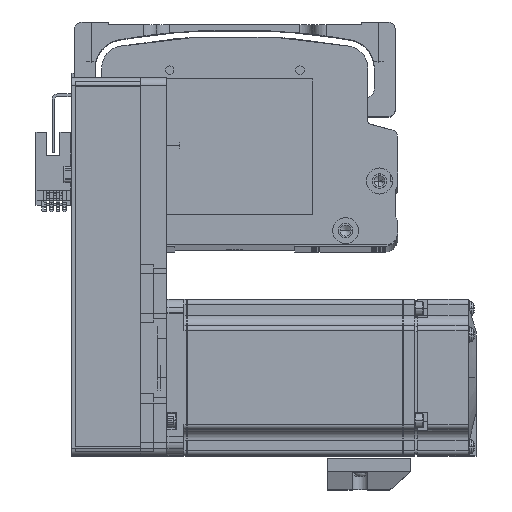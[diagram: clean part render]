
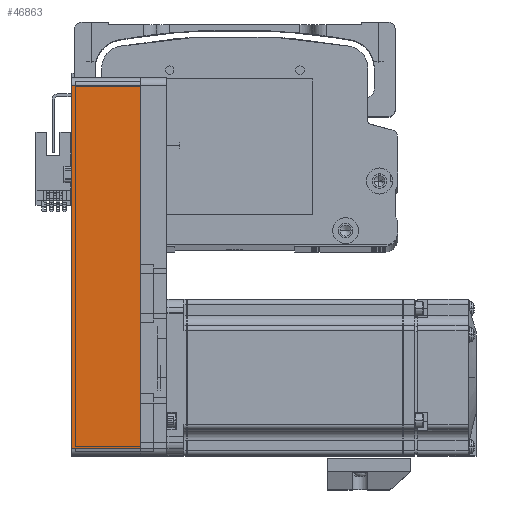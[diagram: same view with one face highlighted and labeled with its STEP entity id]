
A CAD part, top view. The second image highlights one B-rep face of the part: STEP entity #46863.
In plain terms, the highlighted planar face has unit normal (0, 0, 1) as drawn and (0, 1, 0) by its records, which use the part's own axes.
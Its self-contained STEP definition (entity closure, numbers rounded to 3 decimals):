
#353 = DIRECTION ( 'NONE',  ( -1., 0., 0. ) ) ;
#2109 = LINE ( 'NONE', #53315, #35348 ) ;
#6093 = EDGE_LOOP ( 'NONE', ( #50355, #64651, #39864, #53843 ) ) ;
#6414 = VECTOR ( 'NONE', #8885, 1000. ) ;
#7532 = VERTEX_POINT ( 'NONE', #14781 ) ;
#8885 = DIRECTION ( 'NONE',  ( 0., 0., -1. ) ) ;
#13156 = DIRECTION ( 'NONE',  ( 0., 0., 1. ) ) ;
#14781 = CARTESIAN_POINT ( 'NONE',  ( 69.5, 30., 0. ) ) ;
#15645 = EDGE_CURVE ( 'NONE', #67888, #57159, #2109, .T. ) ;
#26073 = EDGE_CURVE ( 'NONE', #37667, #57159, #30204, .T. ) ;
#27575 = AXIS2_PLACEMENT_3D ( 'NONE', #32891, #79358, #39576 ) ;
#28124 = VECTOR ( 'NONE', #353, 1000. ) ;
#30204 = LINE ( 'NONE', #73253, #28124 ) ;
#32891 = CARTESIAN_POINT ( 'NONE',  ( 72.5, 30., 26.5 ) ) ;
#35348 = VECTOR ( 'NONE', #13156, 1000. ) ;
#36791 = EDGE_CURVE ( 'NONE', #7532, #67888, #40560, .T. ) ;
#37667 = VERTEX_POINT ( 'NONE', #75010 ) ;
#39576 = DIRECTION ( 'NONE',  ( 1., 0., 0. ) ) ;
#39864 = ORIENTED_EDGE ( 'NONE', *, *, #26073, .F. ) ;
#40492 = CARTESIAN_POINT ( 'NONE',  ( -69.5, 30., 26.5 ) ) ;
#40560 = LINE ( 'NONE', #71406, #56166 ) ;
#43791 = LINE ( 'NONE', #81788, #6414 ) ;
#44933 = DIRECTION ( 'NONE',  ( -1., 0., 0. ) ) ;
#46863 = ADVANCED_FACE ( 'NONE', ( #76066 ), #65714, .F. ) ;
#50355 = ORIENTED_EDGE ( 'NONE', *, *, #36791, .T. ) ;
#53315 = CARTESIAN_POINT ( 'NONE',  ( -69.5, 30., 26.5 ) ) ;
#53843 = ORIENTED_EDGE ( 'NONE', *, *, #61965, .T. ) ;
#56166 = VECTOR ( 'NONE', #44933, 1000. ) ;
#57159 = VERTEX_POINT ( 'NONE', #40492 ) ;
#61965 = EDGE_CURVE ( 'NONE', #37667, #7532, #43791, .T. ) ;
#64651 = ORIENTED_EDGE ( 'NONE', *, *, #15645, .T. ) ;
#65714 = PLANE ( 'NONE',  #27575 ) ;
#67888 = VERTEX_POINT ( 'NONE', #75781 ) ;
#71406 = CARTESIAN_POINT ( 'NONE',  ( 72.5, 30., 0. ) ) ;
#73253 = CARTESIAN_POINT ( 'NONE',  ( 72.5, 30., 26.5 ) ) ;
#75010 = CARTESIAN_POINT ( 'NONE',  ( 69.5, 30., 26.5 ) ) ;
#75781 = CARTESIAN_POINT ( 'NONE',  ( -69.5, 30., 0. ) ) ;
#76066 = FACE_OUTER_BOUND ( 'NONE', #6093, .T. ) ;
#79358 = DIRECTION ( 'NONE',  ( 0., -1., 0. ) ) ;
#81788 = CARTESIAN_POINT ( 'NONE',  ( 69.5, 30., 26.5 ) ) ;
